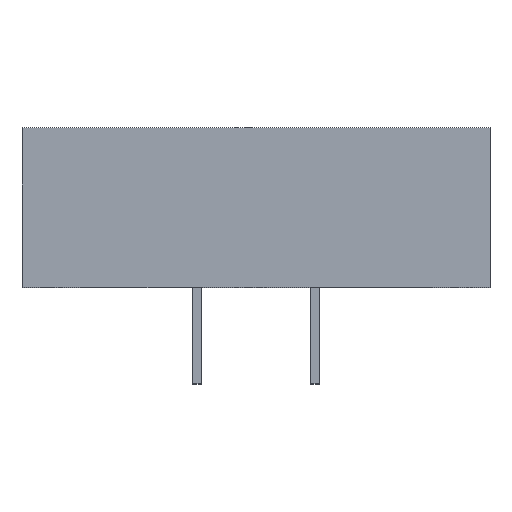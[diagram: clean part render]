
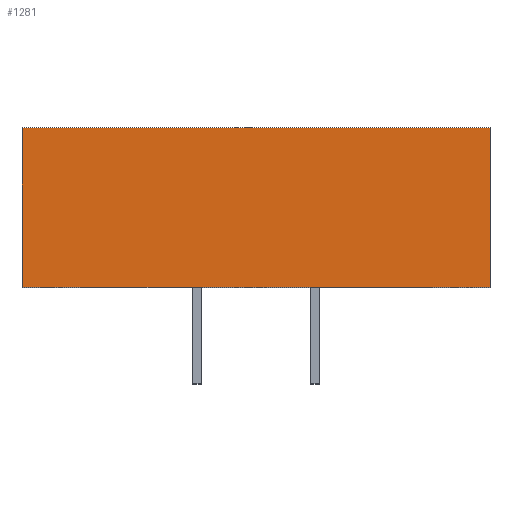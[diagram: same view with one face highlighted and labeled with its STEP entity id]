
A CAD part, top view. The second image highlights one B-rep face of the part: STEP entity #1281.
In plain terms, the highlighted planar face has unit normal (0, 0, 1).
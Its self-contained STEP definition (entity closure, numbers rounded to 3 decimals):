
#121 = VERTEX_POINT ( 'NONE', #797 ) ;
#170 = EDGE_CURVE ( 'NONE', #121, #1591, #396, .T. ) ;
#221 = CARTESIAN_POINT ( 'NONE',  ( -60., 54.9, 46.7 ) ) ;
#233 = VERTEX_POINT ( 'NONE', #1236 ) ;
#235 = ORIENTED_EDGE ( 'NONE', *, *, #1467, .F. ) ;
#324 = VECTOR ( 'NONE', #1329, 1000. ) ;
#344 = CARTESIAN_POINT ( 'NONE',  ( 60., 14., 46.7 ) ) ;
#396 = LINE ( 'NONE', #939, #861 ) ;
#511 = VECTOR ( 'NONE', #1023, 1000. ) ;
#512 = CARTESIAN_POINT ( 'NONE',  ( 60., 14., 46.7 ) ) ;
#572 = CARTESIAN_POINT ( 'NONE',  ( -60., 14., 46.7 ) ) ;
#581 = EDGE_CURVE ( 'NONE', #1319, #121, #1184, .T. ) ;
#637 = EDGE_CURVE ( 'NONE', #233, #1591, #1466, .T. ) ;
#709 = DIRECTION ( 'NONE',  ( 0., 1., 0. ) ) ;
#746 = ORIENTED_EDGE ( 'NONE', *, *, #581, .T. ) ;
#757 = VECTOR ( 'NONE', #709, 1000. ) ;
#797 = CARTESIAN_POINT ( 'NONE',  ( 60., 54.9, 46.7 ) ) ;
#831 = ORIENTED_EDGE ( 'NONE', *, *, #170, .T. ) ;
#861 = VECTOR ( 'NONE', #963, 1000. ) ;
#939 = CARTESIAN_POINT ( 'NONE',  ( 60., 54.9, 46.7 ) ) ;
#963 = DIRECTION ( 'NONE',  ( -1., 0., 0. ) ) ;
#1023 = DIRECTION ( 'NONE',  ( 0., 1., 0. ) ) ;
#1067 = CARTESIAN_POINT ( 'NONE',  ( 60., 14., 46.7 ) ) ;
#1095 = LINE ( 'NONE', #1067, #324 ) ;
#1106 = FACE_OUTER_BOUND ( 'NONE', #1295, .T. ) ;
#1124 = DIRECTION ( 'NONE',  ( 0., 0., 1. ) ) ;
#1141 = PLANE ( 'NONE',  #1503 ) ;
#1184 = LINE ( 'NONE', #1680, #511 ) ;
#1218 = ORIENTED_EDGE ( 'NONE', *, *, #637, .F. ) ;
#1236 = CARTESIAN_POINT ( 'NONE',  ( -60., 14., 46.7 ) ) ;
#1281 = ADVANCED_FACE ( 'NONE', ( #1106 ), #1141, .T. ) ;
#1295 = EDGE_LOOP ( 'NONE', ( #1218, #235, #746, #831 ) ) ;
#1319 = VERTEX_POINT ( 'NONE', #512 ) ;
#1329 = DIRECTION ( 'NONE',  ( -1., 0., 0. ) ) ;
#1466 = LINE ( 'NONE', #572, #757 ) ;
#1467 = EDGE_CURVE ( 'NONE', #1319, #233, #1095, .T. ) ;
#1503 = AXIS2_PLACEMENT_3D ( 'NONE', #344, #1124, #1671 ) ;
#1591 = VERTEX_POINT ( 'NONE', #221 ) ;
#1671 = DIRECTION ( 'NONE',  ( 1., 0., 0. ) ) ;
#1680 = CARTESIAN_POINT ( 'NONE',  ( 60., 14., 46.7 ) ) ;
